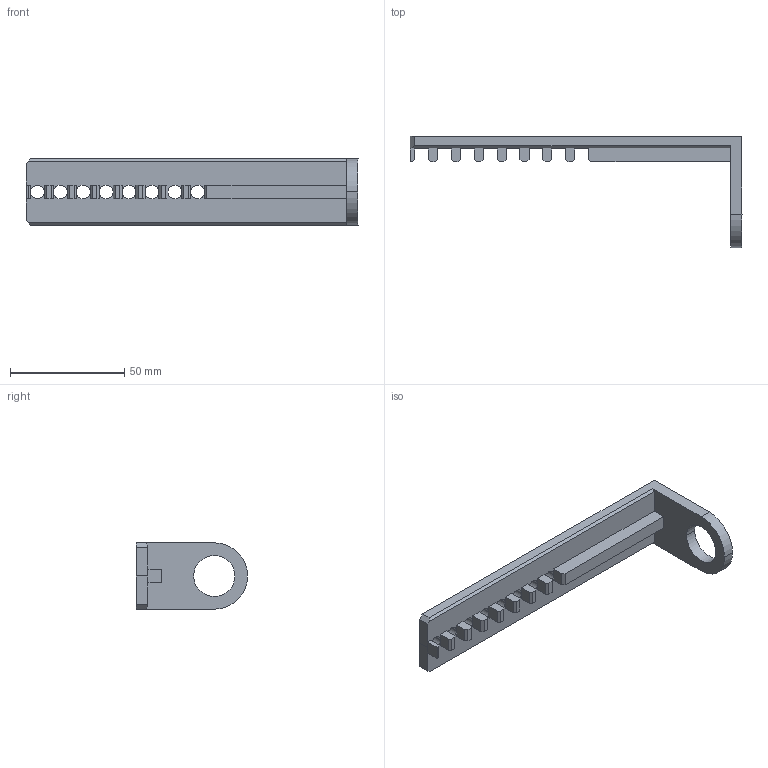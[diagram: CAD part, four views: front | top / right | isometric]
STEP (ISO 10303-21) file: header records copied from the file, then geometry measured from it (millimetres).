
FILE_DESCRIPTION(/* description */ ('STEP AP214'),/* implementation_level */ '2;1');
FILE_NAME(/* name */ 'Development_Halo_Spigot_Drill_New_STEMRACINGSPAIN.stp',/* time_stamp */ '2026-09-03T01:30:42+02:00',/* author */ ('juanm'),/* organization */ (' '),/* preprocessor_version */ 'ST-DEVELOPER v20.1',/* originating_system */ 'Autodesk Inventor 2026',/* authorisation */ ' ');
FILE_SCHEMA (('AUTOMOTIVE_DESIGN { 1 0 10303 214 3 1 1 }'));
Products named in the file (1): Development+Halo+Spigot+Drilling+Jig+for+3D+Printing+V2
Bounding box: 145 x 48.5 x 29 mm (x, y, z)
Volume: 27562.9 mm3; surface area: 14480.9 mm2
Topology: 1 solids, 1 shells, 1735 faces, 4868 edges, 3236 vertices
Faces by surface type: cylinder 685, bspline 530, plane 520
Entity records: 61813 total; most frequent: CARTESIAN_POINT 19170, ORIENTED_EDGE 9736, DIRECTION 7652, EDGE_CURVE 4868, VERTEX_POINT 3236, AXIS2_PLACEMENT_3D 2612, LINE 2428, VECTOR 2428
